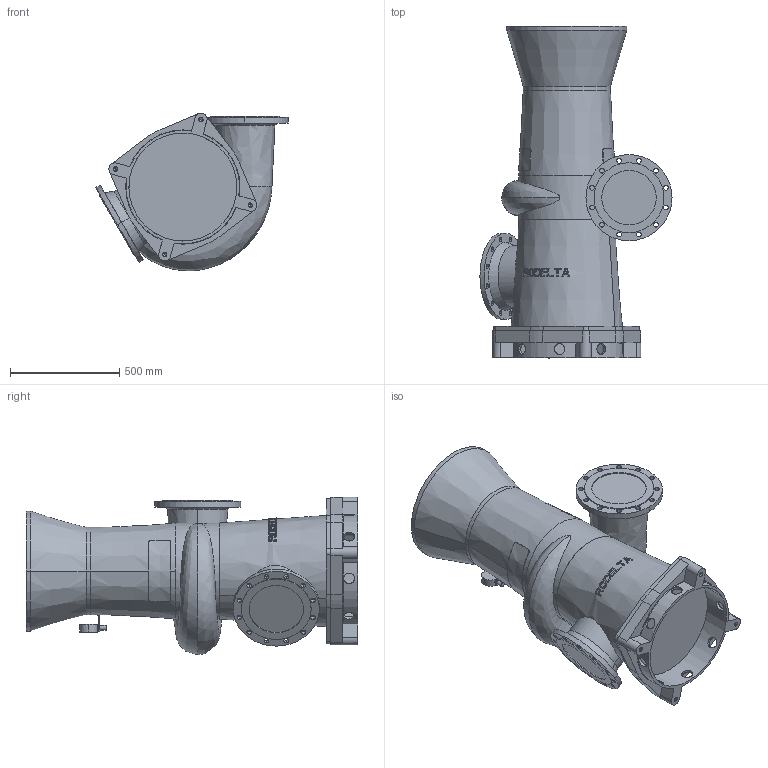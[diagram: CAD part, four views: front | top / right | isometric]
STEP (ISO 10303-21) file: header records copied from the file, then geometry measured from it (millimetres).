
FILE_DESCRIPTION((''),'2;1');
FILE_NAME('8310_VOOR_BLAD_ASM','2024-07-25T',('Lyritlocal'),(''),'PRO/ENGINEER BY PARAMETRIC TECHNOLOGY CORPORATION, 2016360','PRO/ENGINEER BY PARAMETRIC TECHNOLOGY CORPORATION, 2016360','');
FILE_SCHEMA(('CONFIG_CONTROL_DESIGN'));
Length unit declared in the file: millimetre
Products named in the file (3): 8310; 8310_VOET; 8310_VOOR_BLAD_ASM
Assembly tree (2 placements, depth 2):
  8310_VOOR_BLAD_ASM
    8310
    8310_VOET
Bounding box: 880.89 x 1521 x 723.26 mm (x, y, z)
Volume: 290401681.4 mm3; surface area: 4473475.7 mm2
Topology: 2 solids, 6 shells, 545 faces, 1466 edges, 969 vertices
Faces by surface type: plane 342, cylinder 153, cone 40, bspline 6, torus 4
Entity records: 19407 total; most frequent: CARTESIAN_POINT 6110, ORIENTED_EDGE 2900, DIRECTION 2489, EDGE_CURVE 1458, VERTEX_POINT 969, AXIS2_PLACEMENT_3D 967, EDGE_LOOP 661, VECTOR 555
